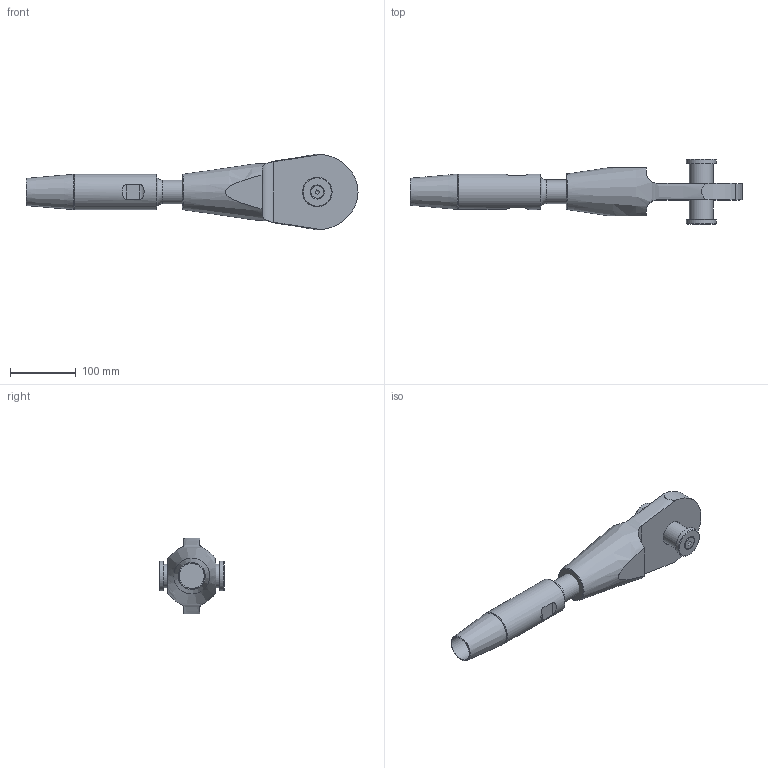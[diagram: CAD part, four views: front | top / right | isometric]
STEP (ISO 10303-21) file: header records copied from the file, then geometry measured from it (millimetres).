
FILE_DESCRIPTION(/* description */ (''),/* implementation_level */ '2;1');
FILE_NAME(/* name */ 'C:\Vault_WS\Designs\SB\01-PX\Verzinkt\ZSS\520 - Zusambau-OES-ADA\520-036-OES-ADA.stp',/* time_stamp */ '2020-10-07T15:37:54+02:00',/* author */ ('schwarz'),/* organization */ (''),/* preprocessor_version */ 'ST-DEVELOPER v18.1',/* originating_system */ 'Autodesk Inventor 2020',/* authorisation */ '');
FILE_SCHEMA (('AUTOMOTIVE_DESIGN { 1 0 10303 214 3 1 1 }'));
Length unit declared in the file: millimetre
Products named in the file (1): 520-036-OES-ADA-Kunde
Bounding box: 505 x 99.75 x 115.27 mm (x, y, z)
Volume: 1408215.6 mm3; surface area: 148543.2 mm2
Topology: 6 solids, 6 shells, 62 faces, 151 edges, 105 vertices
Faces by surface type: plane 27, cylinder 20, cone 13, torus 2
Full cylindrical faces by diameter (mm): 8.376 x1, 10 x1, 11 x1, 19.22 x1, 36 x2, 38 x1, 39 x1, 45 x2, 54 x1
Entity records: 2152 total; most frequent: CARTESIAN_POINT 545, DIRECTION 312, ORIENTED_EDGE 298, EDGE_CURVE 149, AXIS2_PLACEMENT_3D 130, VERTEX_POINT 105, EDGE_LOOP 72, STYLED_ITEM 68
